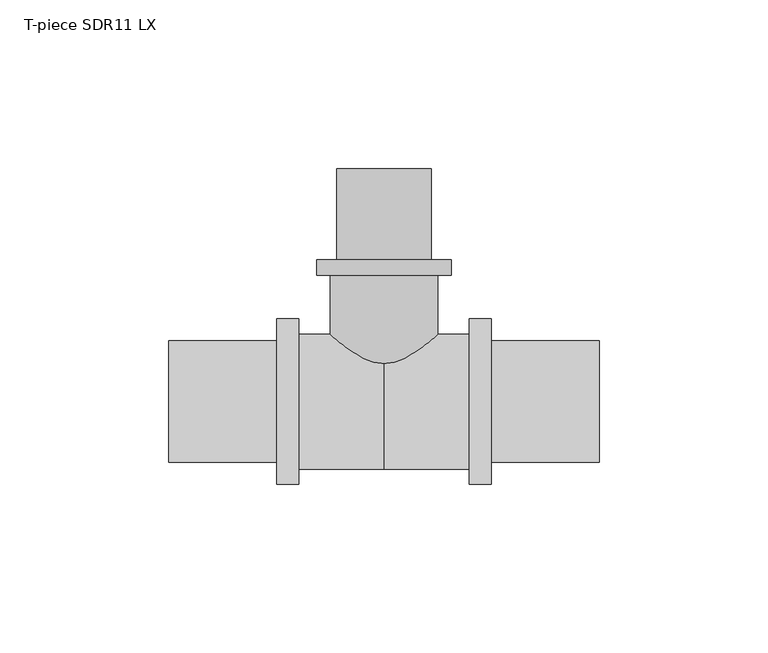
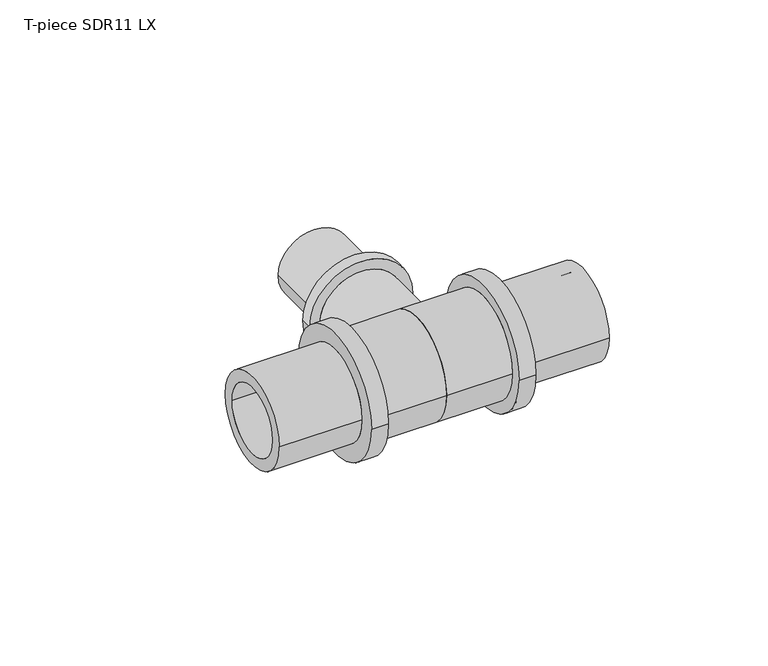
"""IFC4 building model written with IfcOpenShell, lengths in millimetres: pipe fitting geometry, T-piece SDR11 LX : T-piece LX SDR11 LX."""

from ifc_helpers import new_model, si_unit, point, frame, origin, place, context, project, spatial, polyline, circle_curve, ellipse_curve, trimmed, source, transform, mapped, element, save
from ifc_brep_helpers import plane_surface, cylinder_surface, revolved_surface, advanced_brep


def t_piece_sdr11_lx_149c8f26(model_context):
    return source(origin(), model_context, "Body", "AdvancedBrep", [
        advanced_brep(
        [(16.0, 1.856228, 0.0), (-16.0, 1.856228, 0.0), (-16.0, 37.5, 0.0), (16.0, 37.5, 0.0), (11.2, 69.0, 0.0), (-11.2, 69.0, 0.0), (-11.2, 0.0, 0.0), (11.2, 0.0, 0.0), (13.95, 42.0, 0.0), (-13.95, 42.0, 0.0), (-13.95, 69.0, 0.0), (13.95, 69.0, 0.0), (20.0, 37.5, 0.0), (-20.0, 37.5, 0.0), (-20.0, 42.0, 0.0), (20.0, 42.0, 0.0)],
        [
            (0, 1, circle_curve(frame((0.0, 1.856228, 0.0), z_axis=(0.0, 1.0, 0.0), x_axis=(-1.0, 0.0, 0.0)), 16.0)),
            (1, 2),
            (2, 3, circle_curve(frame((0.0, 37.5, 0.0), z_axis=(0.0, -1.0, 0.0), x_axis=(-1.0, 0.0, 0.0)), 16.0)),
            (3, 0),
            (4, 5, circle_curve(frame((0.0, 69.0, 0.0), z_axis=(0.0, 1.0, 0.0), x_axis=(-1.0, 0.0, 0.0)), 11.2)),
            (5, 6),
            (6, 7, circle_curve(frame((0.0, 0.0, 0.0), z_axis=(0.0, -1.0, 0.0), x_axis=(-1.0, 0.0, 0.0)), 11.2)),
            (7, 4),
            (8, 9, circle_curve(frame((0.0, 42.0, 0.0), z_axis=(0.0, 1.0, 0.0), x_axis=(-1.0, 0.0, 0.0)), 13.95)),
            (9, 10),
            (10, 11, circle_curve(frame((0.0, 69.0, 0.0), z_axis=(0.0, -1.0, 0.0), x_axis=(-1.0, 0.0, 0.0)), 13.95)),
            (11, 8),
            (12, 13, circle_curve(frame((0.0, 37.5, 0.0), z_axis=(0.0, 1.0, 0.0), x_axis=(-1.0, 0.0, 0.0)), 20.0)),
            (13, 14),
            (14, 15, circle_curve(frame((0.0, 42.0, 0.0), z_axis=(0.0, -1.0, 0.0), x_axis=(-1.0, 0.0, 0.0)), 20.0)),
            (15, 12),
            (12, 13, circle_curve(frame((0.0, 37.5, 0.0), z_axis=(0.0, -1.0, 0.0), x_axis=(1.0, 0.0, 0.0)), 20.0)),
            (2, 3, circle_curve(frame((0.0, 37.5, 0.0), z_axis=(0.0, 1.0, 0.0), x_axis=(1.0, 0.0, 0.0)), 16.0)),
            (1, 0, circle_curve(frame((0.0, 1.856228, 0.0), z_axis=(0.0, 1.0, 0.0), x_axis=(1.0, 0.0, 0.0)), 16.0)),
            (5, 4, circle_curve(frame((0.0, 69.0, 0.0), z_axis=(0.0, 1.0, 0.0), x_axis=(1.0, 0.0, 0.0)), 11.2)),
            (7, 6, circle_curve(frame((0.0, 0.0, 0.0), z_axis=(0.0, -1.0, 0.0), x_axis=(1.0, 0.0, 0.0)), 11.2)),
            (10, 11, circle_curve(frame((0.0, 69.0, 0.0), z_axis=(0.0, 1.0, 0.0), x_axis=(1.0, 0.0, 0.0)), 13.95)),
            (9, 8, circle_curve(frame((0.0, 42.0, 0.0), z_axis=(0.0, 1.0, 0.0), x_axis=(1.0, 0.0, 0.0)), 13.95)),
            (14, 15, circle_curve(frame((0.0, 42.0, 0.0), z_axis=(0.0, 1.0, 0.0), x_axis=(1.0, 0.0, 0.0)), 20.0)),
            (6, 1, circle_curve(frame((-6.4462802, 19.4268409, 0.0), z_axis=(0.0, 0.0, -1.0), x_axis=(0.0, -1.0, 0.0)), 20.0)),
            (0, 7, circle_curve(frame((6.4462802, 19.4268409, 0.0), z_axis=(0.0, 0.0, -1.0), x_axis=(0.0, -1.0, 0.0)), 20.0)),
        ],
        [
            cylinder_surface(frame((0.0, 0.0, 0.0), z_axis=(0.0, -1.0, 0.0), x_axis=(-1.0, 0.0, 0.0)), 16.0),
            revolved_surface(polyline([(-11.2, 0.0, 0.0), (-11.2, 69.0, 0.0)]), (0.0, 0.0, 0.0), (0.0, -1.0, 0.0)),
            cylinder_surface(frame((0.0, 0.0, 0.0), z_axis=(0.0, -1.0, 0.0), x_axis=(-1.0, 0.0, 0.0)), 13.95),
            cylinder_surface(frame((0.0, 0.0, 0.0), z_axis=(0.0, -1.0, 0.0), x_axis=(-1.0, 0.0, 0.0)), 20.0),
            plane_surface(frame((0.0, 37.5, 0.0), z_axis=(0.0, -1.0, 0.0), x_axis=(1.0, 0.0, 0.0))),
            cylinder_surface(frame((0.0, 0.0, 0.0), z_axis=(0.0, -1.0, 0.0), x_axis=(1.0, 0.0, 0.0)), 16.0),
            revolved_surface(polyline([(11.2, 0.0, 0.0), (11.2, 69.0, 0.0)]), (0.0, 0.0, 0.0), (0.0, -1.0, 0.0)),
            plane_surface(frame((0.0, 69.0, 0.0), z_axis=(0.0, 1.0, 0.0), x_axis=(1.0, 0.0, 0.0))),
            cylinder_surface(frame((0.0, 0.0, 0.0), z_axis=(0.0, -1.0, 0.0), x_axis=(1.0, 0.0, 0.0)), 13.95),
            plane_surface(frame((0.0, 42.0, 0.0), z_axis=(0.0, 1.0, 0.0), x_axis=(1.0, 0.0, 0.0))),
            cylinder_surface(frame((0.0, 0.0, 0.0), z_axis=(0.0, -1.0, 0.0), x_axis=(1.0, 0.0, 0.0)), 20.0),
            revolved_surface(trimmed(ellipse_curve(frame((-6.4462802, 19.4268409, 0.0), z_axis=(0.0, 0.0, 1.0), x_axis=(0.0, -1.0, 0.0)), 20.0, 20.0), [point((-16.0, 1.856228, 0.0))], [point((-11.2, 0.0, 0.0))], True, "CARTESIAN"), (0.0, 0.0, 0.0), (0.0, -1.0, 0.0)),
            revolved_surface(trimmed(ellipse_curve(frame((6.4462802, 19.4268409, 0.0), z_axis=(0.0, 0.0, -1.0), x_axis=(0.0, -1.0, 0.0)), 20.0, 20.0), [point((16.0, 1.856228, 0.0))], [point((11.2, 0.0, 0.0))], True, "CARTESIAN"), (0.0, 0.0, 0.0), (0.0, -1.0, 0.0)),
        ],
        [
            (0, [[1, 2, 3, 4]]),
            (1, [[5, 6, 7, 8]]),
            (2, [[9, 10, 11, 12]]),
            (3, [[13, 14, 15, 16]]),
            (4, [[17, -13], [18, -3]]),
            (5, [[19, -4, -18, -2]]),
            (6, [[20, -8, 21, -6]]),
            (7, [[22, -11], [-20, -5]]),
            (8, [[23, -12, -22, -10]]),
            (9, [[24, -15], [-23, -9]]),
            (10, [[-17, -16, -24, -14]]),
            (11, [[-7, 25, -1, 26]]),
            (12, [[-21, -26, -19, -25]]),
        ],
    ),
        advanced_brep(
        [(25.3, 20.0, 0.0), (25.3, -20.0, 0.0), (0.0, -20.0, 0.0), (0.0, 20.0, 0.0), (0.0, 13.5, 0.0), (0.0, -13.5, 0.0), (63.8, -13.5, 0.0), (63.8, 13.5, 0.0), (63.8, 18.0, 0.0), (63.8, -18.0, 0.0), (31.8, -18.0, 0.0), (31.8, 18.0, 0.0), (31.8, 24.5, 0.0), (31.8, -24.5, 0.0), (25.3, -24.5, 0.0), (25.3, 24.5, 0.0)],
        [
            (0, 1, circle_curve(frame((25.3, 0.0, 0.0), z_axis=(-1.0, 0.0, 0.0), x_axis=(0.0, -1.0, 0.0)), 20.0)),
            (1, 2),
            (2, 3, circle_curve(frame((0.0, 0.0, 0.0), z_axis=(1.0, 0.0, 0.0), x_axis=(0.0, -1.0, 0.0)), 20.0)),
            (3, 0),
            (4, 5, circle_curve(frame((0.0, 0.0, 0.0), z_axis=(-1.0, 0.0, 0.0), x_axis=(0.0, -1.0, 0.0)), 13.5)),
            (5, 6),
            (6, 7, circle_curve(frame((63.8, 0.0, 0.0), z_axis=(1.0, 0.0, 0.0), x_axis=(0.0, -1.0, 0.0)), 13.5)),
            (7, 4),
            (8, 9, circle_curve(frame((63.8, 0.0, 0.0), z_axis=(-1.0, 0.0, 0.0), x_axis=(0.0, -1.0, 0.0)), 18.0)),
            (9, 10),
            (10, 11, circle_curve(frame((31.8, 0.0, 0.0), z_axis=(1.0, 0.0, 0.0), x_axis=(0.0, -1.0, 0.0)), 18.0)),
            (11, 8),
            (12, 13, circle_curve(frame((31.8, 0.0, 0.0), z_axis=(-1.0, 0.0, 0.0), x_axis=(0.0, -1.0, 0.0)), 24.5)),
            (13, 14),
            (14, 15, circle_curve(frame((25.3, 0.0, 0.0), z_axis=(1.0, 0.0, 0.0), x_axis=(0.0, -1.0, 0.0)), 24.5)),
            (15, 12),
            (14, 15, circle_curve(frame((25.3, 0.0, 0.0), z_axis=(-1.0, 0.0, 0.0), x_axis=(0.0, 1.0, 0.0)), 24.5)),
            (0, 1, circle_curve(frame((25.3, 0.0, 0.0), z_axis=(1.0, 0.0, 0.0), x_axis=(0.0, 1.0, 0.0)), 20.0)),
            (3, 2, circle_curve(frame((0.0, 0.0, 0.0), z_axis=(1.0, 0.0, 0.0), x_axis=(0.0, 1.0, 0.0)), 20.0)),
            (4, 5, circle_curve(frame((0.0, 0.0, 0.0), z_axis=(1.0, 0.0, 0.0), x_axis=(0.0, 1.0, 0.0)), 13.5)),
            (7, 6, circle_curve(frame((63.8, 0.0, 0.0), z_axis=(1.0, 0.0, 0.0), x_axis=(0.0, 1.0, 0.0)), 13.5)),
            (8, 9, circle_curve(frame((63.8, 0.0, 0.0), z_axis=(1.0, 0.0, 0.0), x_axis=(0.0, 1.0, 0.0)), 18.0)),
            (11, 10, circle_curve(frame((31.8, 0.0, 0.0), z_axis=(1.0, 0.0, 0.0), x_axis=(0.0, 1.0, 0.0)), 18.0)),
            (12, 13, circle_curve(frame((31.8, 0.0, 0.0), z_axis=(1.0, 0.0, 0.0), x_axis=(0.0, 1.0, 0.0)), 24.5)),
        ],
        [
            cylinder_surface(frame((0.0, 0.0, 0.0), z_axis=(1.0, 0.0, 0.0), x_axis=(0.0, -1.0, 0.0)), 20.0),
            revolved_surface(polyline([(63.8, -13.5, 0.0), (0.0, -13.5, 0.0)]), (0.0, 0.0, 0.0), (1.0, 0.0, 0.0)),
            cylinder_surface(frame((0.0, 0.0, 0.0), z_axis=(1.0, 0.0, 0.0), x_axis=(0.0, -1.0, 0.0)), 18.0),
            cylinder_surface(frame((0.0, 0.0, 0.0), z_axis=(1.0, 0.0, 0.0), x_axis=(0.0, -1.0, 0.0)), 24.5),
            plane_surface(frame((25.3, 0.0, 0.0), z_axis=(-1.0, 0.0, 0.0), x_axis=(0.0, 1.0, 0.0))),
            cylinder_surface(frame((0.0, 0.0, 0.0), z_axis=(1.0, 0.0, 0.0), x_axis=(0.0, 1.0, 0.0)), 20.0),
            plane_surface(frame((0.0, 0.0, 0.0), z_axis=(-1.0, 0.0, 0.0), x_axis=(0.0, 1.0, 0.0))),
            revolved_surface(polyline([(63.8, 13.5, 0.0), (0.0, 13.5, 0.0)]), (0.0, 0.0, 0.0), (1.0, 0.0, 0.0)),
            plane_surface(frame((63.8, 0.0, 0.0), z_axis=(1.0, 0.0, 0.0), x_axis=(0.0, 1.0, 0.0))),
            cylinder_surface(frame((0.0, 0.0, 0.0), z_axis=(1.0, 0.0, 0.0), x_axis=(0.0, 1.0, 0.0)), 18.0),
            plane_surface(frame((31.8, 0.0, 0.0), z_axis=(1.0, 0.0, 0.0), x_axis=(0.0, 1.0, 0.0))),
            cylinder_surface(frame((0.0, 0.0, 0.0), z_axis=(1.0, 0.0, 0.0), x_axis=(0.0, 1.0, 0.0)), 24.5),
        ],
        [
            (0, [[1, 2, 3, 4]]),
            (1, [[5, 6, 7, 8]]),
            (2, [[9, 10, 11, 12]]),
            (3, [[13, 14, 15, 16]]),
            (4, [[17, -15], [18, -1]]),
            (5, [[-18, -4, 19, -2]]),
            (6, [[-19, -3], [20, -5]]),
            (7, [[-20, -8, 21, -6]]),
            (8, [[22, -9], [-21, -7]]),
            (9, [[-22, -12, 23, -10]]),
            (10, [[24, -13], [-23, -11]]),
            (11, [[-24, -16, -17, -14]]),
        ],
    ),
        advanced_brep(
        [(0.0, 20.0, 0.0), (0.0, -20.0, 0.0), (-25.3, -20.0, 0.0), (-25.3, 20.0, 0.0), (-63.8, 13.5, 0.0), (-63.8, -13.5, 0.0), (0.0, -13.5, 0.0), (0.0, 13.5, 0.0), (-31.8, 18.0, 0.0), (-31.8, -18.0, 0.0), (-63.8, -18.0, 0.0), (-63.8, 18.0, 0.0), (-25.3, 24.5, 0.0), (-25.3, -24.5, 0.0), (-31.8, -24.5, 0.0), (-31.8, 24.5, 0.0)],
        [
            (0, 1, circle_curve(frame((0.0, 0.0, 0.0), z_axis=(-1.0, 0.0, 0.0), x_axis=(0.0, -1.0, 0.0)), 20.0)),
            (1, 2),
            (2, 3, circle_curve(frame((-25.3, 0.0, 0.0), z_axis=(1.0, 0.0, 0.0), x_axis=(0.0, -1.0, 0.0)), 20.0)),
            (3, 0),
            (4, 5, circle_curve(frame((-63.8, 0.0, 0.0), z_axis=(-1.0, 0.0, 0.0), x_axis=(0.0, -1.0, 0.0)), 13.5)),
            (5, 6),
            (6, 7, circle_curve(frame((0.0, 0.0, 0.0), z_axis=(1.0, 0.0, 0.0), x_axis=(0.0, -1.0, 0.0)), 13.5)),
            (7, 4),
            (8, 9, circle_curve(frame((-31.8, 0.0, 0.0), z_axis=(-1.0, 0.0, 0.0), x_axis=(0.0, -1.0, 0.0)), 18.0)),
            (9, 10),
            (10, 11, circle_curve(frame((-63.8, 0.0, 0.0), z_axis=(1.0, 0.0, 0.0), x_axis=(0.0, -1.0, 0.0)), 18.0)),
            (11, 8),
            (12, 13, circle_curve(frame((-25.3, 0.0, 0.0), z_axis=(-1.0, 0.0, 0.0), x_axis=(0.0, -1.0, 0.0)), 24.5)),
            (13, 14),
            (14, 15, circle_curve(frame((-31.8, 0.0, 0.0), z_axis=(1.0, 0.0, 0.0), x_axis=(0.0, -1.0, 0.0)), 24.5)),
            (15, 12),
            (12, 13, circle_curve(frame((-25.3, 0.0, 0.0), z_axis=(1.0, 0.0, 0.0), x_axis=(0.0, 1.0, 0.0)), 24.5)),
            (2, 3, circle_curve(frame((-25.3, 0.0, 0.0), z_axis=(-1.0, 0.0, 0.0), x_axis=(0.0, 1.0, 0.0)), 20.0)),
            (1, 0, circle_curve(frame((0.0, 0.0, 0.0), z_axis=(-1.0, 0.0, 0.0), x_axis=(0.0, 1.0, 0.0)), 20.0)),
            (6, 7, circle_curve(frame((0.0, 0.0, 0.0), z_axis=(-1.0, 0.0, 0.0), x_axis=(0.0, 1.0, 0.0)), 13.5)),
            (5, 4, circle_curve(frame((-63.8, 0.0, 0.0), z_axis=(-1.0, 0.0, 0.0), x_axis=(0.0, 1.0, 0.0)), 13.5)),
            (10, 11, circle_curve(frame((-63.8, 0.0, 0.0), z_axis=(-1.0, 0.0, 0.0), x_axis=(0.0, 1.0, 0.0)), 18.0)),
            (9, 8, circle_curve(frame((-31.8, 0.0, 0.0), z_axis=(-1.0, 0.0, 0.0), x_axis=(0.0, 1.0, 0.0)), 18.0)),
            (14, 15, circle_curve(frame((-31.8, 0.0, 0.0), z_axis=(-1.0, 0.0, 0.0), x_axis=(0.0, 1.0, 0.0)), 24.5)),
        ],
        [
            cylinder_surface(frame((0.0, 0.0, 0.0), z_axis=(1.0, 0.0, 0.0), x_axis=(0.0, -1.0, 0.0)), 20.0),
            revolved_surface(polyline([(0.0, -13.5, 0.0), (-63.8, -13.5, 0.0)]), (0.0, 0.0, 0.0), (1.0, 0.0, 0.0)),
            cylinder_surface(frame((0.0, 0.0, 0.0), z_axis=(1.0, 0.0, 0.0), x_axis=(0.0, -1.0, 0.0)), 18.0),
            cylinder_surface(frame((0.0, 0.0, 0.0), z_axis=(1.0, 0.0, 0.0), x_axis=(0.0, -1.0, 0.0)), 24.5),
            plane_surface(frame((-25.3, 0.0, 0.0), z_axis=(1.0, 0.0, 0.0), x_axis=(0.0, 1.0, 0.0))),
            cylinder_surface(frame((0.0, 0.0, 0.0), z_axis=(1.0, 0.0, 0.0), x_axis=(0.0, 1.0, 0.0)), 20.0),
            plane_surface(frame((0.0, 0.0, 0.0), z_axis=(1.0, 0.0, 0.0), x_axis=(0.0, 1.0, 0.0))),
            revolved_surface(polyline([(0.0, 13.5, 0.0), (-63.8, 13.5, 0.0)]), (0.0, 0.0, 0.0), (1.0, 0.0, 0.0)),
            plane_surface(frame((-63.8, 0.0, 0.0), z_axis=(-1.0, 0.0, 0.0), x_axis=(0.0, 1.0, 0.0))),
            cylinder_surface(frame((0.0, 0.0, 0.0), z_axis=(1.0, 0.0, 0.0), x_axis=(0.0, 1.0, 0.0)), 18.0),
            plane_surface(frame((-31.8, 0.0, 0.0), z_axis=(-1.0, 0.0, 0.0), x_axis=(0.0, 1.0, 0.0))),
            cylinder_surface(frame((0.0, 0.0, 0.0), z_axis=(1.0, 0.0, 0.0), x_axis=(0.0, 1.0, 0.0)), 24.5),
        ],
        [
            (0, [[1, 2, 3, 4]]),
            (1, [[5, 6, 7, 8]]),
            (2, [[9, 10, 11, 12]]),
            (3, [[13, 14, 15, 16]]),
            (4, [[17, -13], [18, -3]]),
            (5, [[19, -4, -18, -2]]),
            (6, [[-19, -1], [20, -7]]),
            (7, [[21, -8, -20, -6]]),
            (8, [[22, -11], [-21, -5]]),
            (9, [[23, -12, -22, -10]]),
            (10, [[24, -15], [-23, -9]]),
            (11, [[-17, -16, -24, -14]]),
        ],
    ),
    ])


if __name__ == "__main__":
    model = new_model("IFC4")
    model_context = context("Model", 3, world=origin())
    ifc_project = project(units=[si_unit("LENGTHUNIT", "METRE", prefix="MILLI")], contexts=[model_context])
    site = spatial("IfcSite", under=ifc_project)
    building = spatial("IfcBuilding", under=site)
    placement = place(None, origin())
    t_piece_sdr11_lx_shape = t_piece_sdr11_lx_149c8f26(model_context)
    element("IfcPipeFitting", 1, ObjectType="T-piece SDR11 LX : T-piece LX SDR11 LX", at=placement, inside=building, context=model_context, shape_type="MappedRepresentation", body=[
        mapped(t_piece_sdr11_lx_shape, transform((0.0, 0.0, 0.0), x_axis=(1.0, 0.0, 0.0), y_axis=(0.0, 1.0, 0.0), z_axis=(0.0, 0.0, 1.0))),
    ])
    save(model, "model.ifc")
